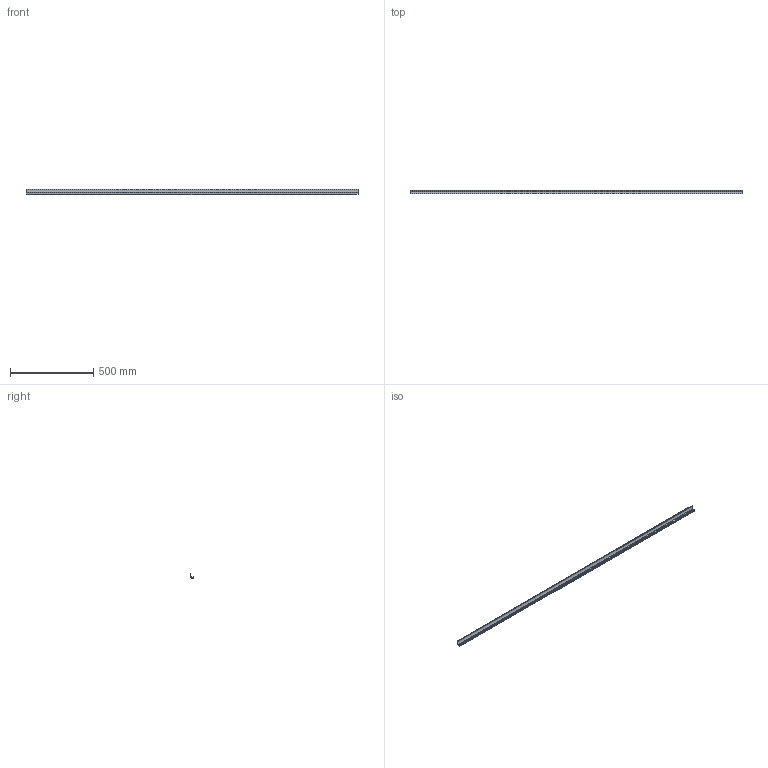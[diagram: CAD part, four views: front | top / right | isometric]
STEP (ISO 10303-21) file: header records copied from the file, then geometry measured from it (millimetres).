
FILE_DESCRIPTION( ( 'STEP AP214' ), ' ' );
FILE_NAME( 'K:/Data Transfer/Yugandhar/SAT., STP., IGS/New folder/115091.stp', '2018-05-07T10:04:47', ( '' ), ( '' ), ' ', 'PARTsolutions', ' ' );
FILE_SCHEMA( ( 'AUTOMOTIVE_DESIGN { 1 0 10303 214 1 1 1 1 }' ) );
Length unit declared in the file: millimetre
Products named in the file (2): 95 ; _
Assembly tree (1 placements, depth 2):
  95 
    _
Bounding box: 2000 x 23.3 x 35 mm (x, y, z)
Volume: 368676.6 mm3; surface area: 258048.2 mm2
Topology: 1 solids, 1 shells, 32 faces, 87 edges, 58 vertices
Faces by surface type: plane 28, cylinder 4
Entity records: 1293 total; most frequent: CARTESIAN_POINT 179, ORIENTED_EDGE 174, DIRECTION 163, EDGE_CURVE 87, LINE 79, VECTOR 79, VERTEX_POINT 58, AXIS2_PLACEMENT_3D 42
